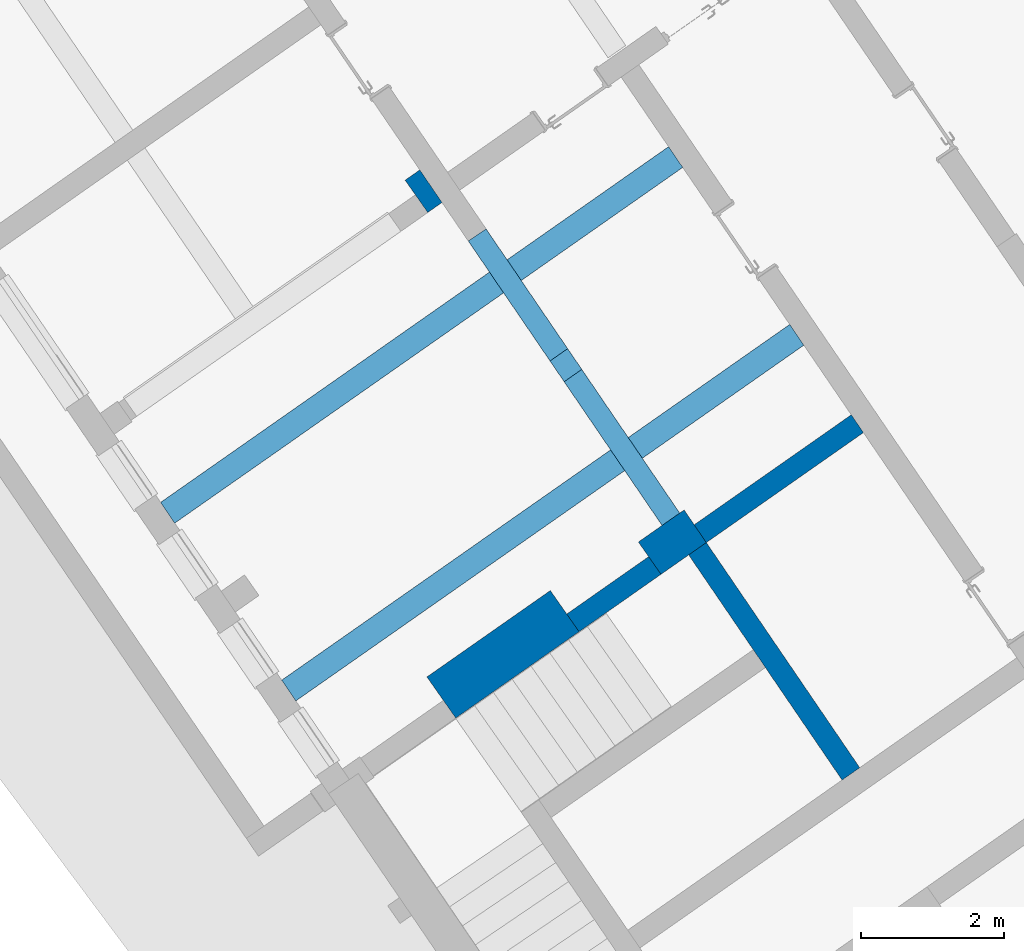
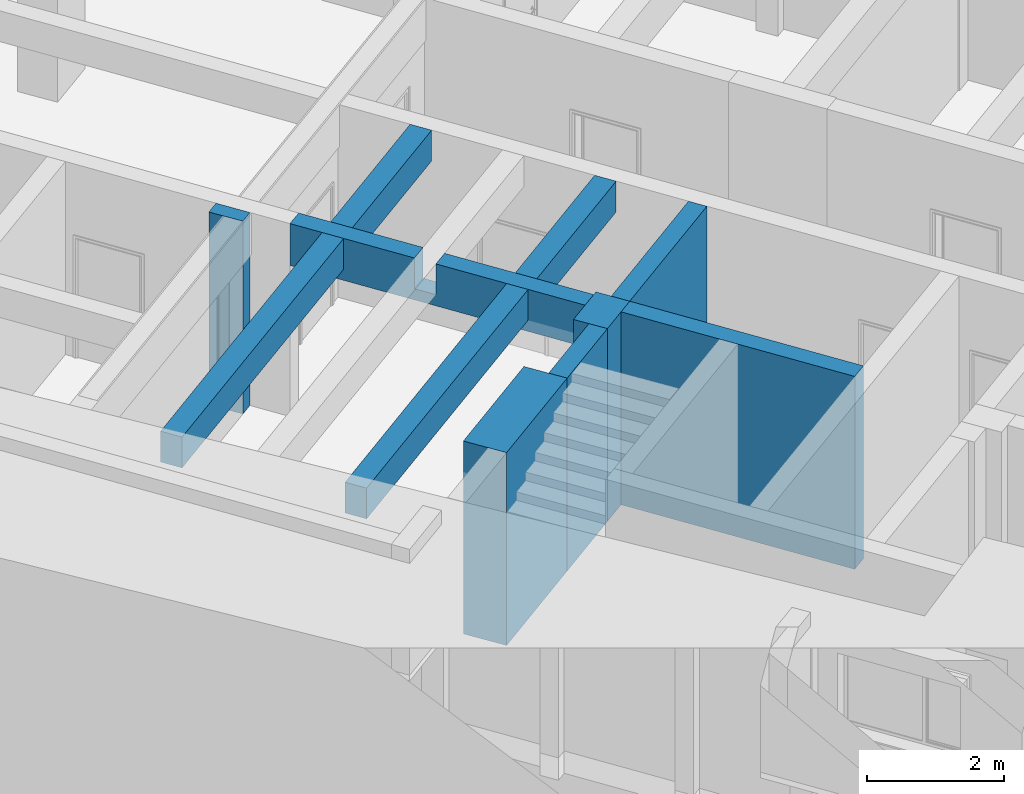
# One storey, part 36 of 112: 9 walls, 2 openings.
"""IFC2X3 building model written with IfcOpenShell, lengths in millimetres."""

from ifc_helpers import new_model, entity, si_unit, converted_unit, derived_unit, direction, frame, frame_2d, origin, origin_2d_with_axis, place, context, subcontext, project, spatial, polyline, rectangle, outline, extrude, clip, bounded_halfspace, material, layer, layer_set, layer_usage, type_object, element, save


model = new_model("IFC2X3")

# Units and contexts
model_context = context("Model", 3, precision=0.01, world=origin(), true_north=direction((6.123031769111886e-17, 1.0)))
body_context = subcontext(model_context, "Body", "Model", "MODEL_VIEW")
ifc_project = project(units=[si_unit("LENGTHUNIT", "METRE", prefix="MILLI"), si_unit("AREAUNIT", "SQUARE_METRE"), si_unit("VOLUMEUNIT", "CUBIC_METRE"), converted_unit("PLANEANGLEUNIT", "DEGREE", entity("IfcRatioMeasure", 0.017453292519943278), si_unit("PLANEANGLEUNIT", "RADIAN"), dimensions=[0, 0, 0, 0, 0, 0, 0]), si_unit("MASSUNIT", "GRAM", prefix="KILO"), derived_unit("MASSDENSITYUNIT", [(si_unit("MASSUNIT", "GRAM", prefix="KILO"), 1), (si_unit("LENGTHUNIT", "METRE"), -3)]), derived_unit("MOMENTOFINERTIAUNIT", [(si_unit("LENGTHUNIT", "METRE"), 4)]), si_unit("TIMEUNIT", "SECOND"), si_unit("FREQUENCYUNIT", "HERTZ"), si_unit("THERMODYNAMICTEMPERATUREUNIT", "DEGREE_CELSIUS"), derived_unit("THERMALTRANSMITTANCEUNIT", [(si_unit("MASSUNIT", "GRAM", prefix="KILO"), 1), (si_unit("THERMODYNAMICTEMPERATUREUNIT", "KELVIN"), -1), (si_unit("TIMEUNIT", "SECOND"), -3)]), derived_unit("THERMALCONDUCTANCEUNIT", [(si_unit("MASSUNIT", "GRAM", prefix="KILO"), 1), (si_unit("LENGTHUNIT", "METRE"), 1), (si_unit("THERMODYNAMICTEMPERATUREUNIT", "KELVIN"), -1), (si_unit("TIMEUNIT", "SECOND"), -3)]), derived_unit("VOLUMETRICFLOWRATEUNIT", [(si_unit("LENGTHUNIT", "METRE"), 3), (si_unit("TIMEUNIT", "SECOND"), -1)]), derived_unit("MASSFLOWRATEUNIT", [(si_unit("MASSUNIT", "GRAM", prefix="KILO"), 1), (si_unit("TIMEUNIT", "SECOND"), -1)]), derived_unit("ROTATIONALFREQUENCYUNIT", [(si_unit("TIMEUNIT", "SECOND"), -1)]), si_unit("ELECTRICCURRENTUNIT", "AMPERE"), si_unit("ELECTRICVOLTAGEUNIT", "VOLT"), si_unit("POWERUNIT", "WATT"), converted_unit("FORCEUNIT", "KIP", entity("IfcRatioMeasure", 2.088543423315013e-05), si_unit("FORCEUNIT", "NEWTON"), dimensions=[1, 1, -2, 0, 0, 0, 0]), si_unit("ILLUMINANCEUNIT", "LUX"), si_unit("LUMINOUSFLUXUNIT", "LUMEN"), si_unit("LUMINOUSINTENSITYUNIT", "CANDELA"), derived_unit("USERDEFINED", [(si_unit("MASSUNIT", "GRAM", prefix="KILO"), -1), (si_unit("LENGTHUNIT", "METRE"), -2), (si_unit("TIMEUNIT", "SECOND"), 3), (si_unit("LUMINOUSFLUXUNIT", "LUMEN"), 1)]), derived_unit("USERDEFINED", [(si_unit("MASSUNIT", "GRAM", prefix="KILO"), 1), (si_unit("LENGTHUNIT", "METRE"), 3), (si_unit("TIMEUNIT", "SECOND"), -3), (si_unit("ELECTRICCURRENTUNIT", "AMPERE"), -2)]), derived_unit("USERDEFINED", [(si_unit("LENGTHUNIT", "METRE"), 2), (si_unit("TIMEUNIT", "SECOND"), -2)]), derived_unit("SOUNDPOWERUNIT", [(si_unit("MASSUNIT", "GRAM", prefix="KILO"), 1), (si_unit("LENGTHUNIT", "METRE"), 2), (si_unit("TIMEUNIT", "SECOND"), -3)]), derived_unit("SOUNDPRESSUREUNIT", [(si_unit("MASSUNIT", "GRAM", prefix="KILO"), 1), (si_unit("LENGTHUNIT", "METRE"), -1), (si_unit("TIMEUNIT", "SECOND"), -2)]), derived_unit("LINEARVELOCITYUNIT", [(si_unit("LENGTHUNIT", "METRE"), 1), (si_unit("TIMEUNIT", "SECOND"), -1)]), si_unit("PRESSUREUNIT", "PASCAL"), derived_unit("USERDEFINED", [(si_unit("LENGTHUNIT", "METRE"), -2), (si_unit("MASSUNIT", "GRAM", prefix="KILO"), 1), (si_unit("TIMEUNIT", "SECOND"), -2)]), derived_unit("LINEARFORCEUNIT", [(si_unit("MASSUNIT", "GRAM", prefix="KILO"), 1), (si_unit("LENGTHUNIT", "METRE"), 1), (si_unit("TIMEUNIT", "SECOND"), -2), (si_unit("LENGTHUNIT", "METRE"), -1)]), derived_unit("PLANARFORCEUNIT", [(si_unit("MASSUNIT", "GRAM", prefix="KILO"), 1), (si_unit("LENGTHUNIT", "METRE"), 1), (si_unit("TIMEUNIT", "SECOND"), -2), (si_unit("LENGTHUNIT", "METRE"), -2)]), derived_unit("SPECIFICHEATCAPACITYUNIT", [(si_unit("LENGTHUNIT", "METRE"), 2), (si_unit("TIMEUNIT", "SECOND"), -2), (si_unit("THERMODYNAMICTEMPERATUREUNIT", "KELVIN"), -1)]), derived_unit("VAPORPERMEABILITYUNIT", [(si_unit("TIMEUNIT", "SECOND"), 1), (si_unit("LENGTHUNIT", "METRE"), -1)]), derived_unit("DYNAMICVISCOSITYUNIT", [(si_unit("MASSUNIT", "GRAM", prefix="KILO"), 1), (si_unit("LENGTHUNIT", "METRE"), -1), (si_unit("TIMEUNIT", "SECOND"), -1)]), derived_unit("THERMALEXPANSIONCOEFFICIENTUNIT", [(si_unit("THERMODYNAMICTEMPERATUREUNIT", "KELVIN"), -1)])], contexts=[model_context])

# Site, building, storey
site_placement = place(None, frame((0.0, 0.0, 0.0), z_axis=(0.0, 0.0, 1.0), x_axis=(0.8191520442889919, 0.5735764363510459, 0.0)))
site = spatial("IfcSite", under=ifc_project, at=site_placement, Name="Default", CompositionType="ELEMENT")
building_placement = place(site_placement, origin())
building = spatial("IfcBuilding", under=site, at=building_placement, CompositionType="ELEMENT")
storey_placement = place(building_placement, frame((0.0, 0.0, -3600.0)))
storey = spatial("IfcBuildingStorey", under=building, at=storey_placement, Name="0.UG -3.60", CompositionType="ELEMENT", Elevation=-3600.0000000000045)

# Walls
ifc_material = material(Name="Analytical Wall Surface_CJC")
ifc_layer_1 = layer(ifc_material, 300.0)
ifc_layer_set_1 = layer_set([ifc_layer_1], Name="Basic Wall:Wand_Innen_30")
ifc_layer_usage_1 = layer_usage(ifc_layer_set_1, "AXIS2", "NEGATIVE", 150.0)
wall_type_1 = type_object("IfcWallType", Name="Basic Wall:Wand_Innen_30", PredefinedType="STANDARD", material=ifc_layer_set_1)
wall_1_placement = place(storey_placement, frame((-216973.09805991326, 111744.44947620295, 0.0), z_axis=(0.0, 0.0, 1.0), x_axis=(0.012729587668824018, 0.9999189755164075, 0.0)))
element("IfcWallStandardCase", 1, at=wall_1_placement, inside=storey, type_object=wall_type_1, material=ifc_layer_usage_1, Name="Basic Wall:Wand_Innen_30", ObjectType="Basic Wall:Wand_Innen_30", context=body_context, shape_type="SweptSolid", body=[
    extrude(outline(polyline([(3804.1271037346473, -150.0), (3800.307917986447, 150.0), (2200.1782683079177, 150.0), (1900.153958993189, 150.0), (0.0, 150.0), (3.8191857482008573, -150.0), (3804.1271037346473, -150.0)])), origin(), (0.0, 0.0, 1.0), 3450.0),
])
ifc_layer_usage_2 = layer_usage(ifc_layer_set_1, "AXIS2", "POSITIVE", -150.0)
wall_2_placement = place(storey_placement, frame((-217545.91670276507, 115696.35891435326, 0.0), z_axis=(0.0, 0.0, 1.0), x_axis=(-1.0, 0.0, 0.0)))
element("IfcWallStandardCase", 2, at=wall_2_placement, inside=storey, type_object=wall_type_1, material=ifc_layer_usage_2, Name="Basic Wall:Wand_Innen_30", ObjectType="Basic Wall:Wand_Innen_30", context=body_context, shape_type="SweptSolid", body=[
    extrude(rectangle(XDim=1395.0211958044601, YDim=300.00000000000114, at=frame_2d((697.5105979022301, -3.566924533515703e-12), x_axis=(-1.0, 0.0))), origin(), (0.0, 0.0, 1.0), 3450.0),
])
wall_3_placement = place(storey_placement, frame((-214095.6370105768, 115696.35891435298, 0.0), z_axis=(0.0, 0.0, 1.0), x_axis=(-1.0, 0.0, 0.0)))
element("IfcWallStandardCase", 3, at=wall_3_placement, inside=storey, type_object=wall_type_1, material=ifc_layer_usage_2, Name="Basic Wall:Wand_Innen_30", ObjectType="Basic Wall:Wand_Innen_30", context=body_context, shape_type="SweptSolid", body=[
    extrude(outline(polyline([(2675.2290477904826, -150.0), (2679.0482335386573, 150.0), (3.819185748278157, 150.0), (0.0, -150.0), (2675.2290477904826, -150.0)])), origin(), (0.0, 0.0, 1.0), 3450.0),
])
wall_4_placement = place(storey_placement, frame((-216931.61897192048, 120894.44947620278, 2700.0), z_axis=(0.0, 0.0, 1.0), x_axis=(-0.012729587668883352, -0.9999189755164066, 0.0)))
element("IfcWallStandardCase", 4, at=wall_4_placement, inside=storey, type_object=wall_type_1, material=ifc_layer_usage_2, Name="Basic Wall:Wand_Innen_30", ObjectType="Basic Wall:Wand_Innen_30", context=body_context, shape_type="Clipping", body=[
    clip(extrude(outline(polyline([(4800.388949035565, -150.0), (4796.569763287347, 150.0), (0.0, 150.0), (0.0, -150.0), (4800.388949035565, -150.0)])), origin(), (0.0, 0.0, 1.0), 750.0), bounded_halfspace(frame((2021.3449021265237, 150.0, 200.0), z_axis=(0.0, 0.0, -1.0), x_axis=(0.9999189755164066, 0.012729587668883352, 0.0)), True, frame((2021.3449021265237, 150.0, 200.0), z_axis=(0.0, 0.0, -1.0), x_axis=(0.9999189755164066, 0.012729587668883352, 0.0)), polyline([(0.0, 0.0), (350.0, 4.455716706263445), (350.0, 304.4800260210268), (0.0, 300.0243093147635), (0.0, 0.0)]))),
])

# Wall, opening
ifc_layer_2 = layer(ifc_material, 350.0)
ifc_layer_set_2 = layer_set([ifc_layer_2], Name="Basic Wall:Wand_Innen_35")
ifc_layer_usage_3 = layer_usage(ifc_layer_set_2, "AXIS2", "POSITIVE", -175.0)
wall_type_2 = type_object("IfcWallType", Name="Basic Wall:Wand_Innen_35", PredefinedType="STANDARD", material=ifc_layer_set_2)
wall_5_placement = place(storey_placement, frame((-214076.22281635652, 117196.3589143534, 2900.0), z_axis=(0.0, 0.0, 1.0), x_axis=(-1.0, 0.0, 0.0)))
wall_5 = element("IfcWallStandardCase", 5, at=wall_5_placement, inside=storey, type_object=wall_type_2, material=ifc_layer_usage_3, Name="Basic Wall:Wand_Innen_35", ObjectType="Basic Wall:Wand_Innen_35", context=body_context, shape_type="SweptSolid", body=[
    extrude(outline(polyline([(4.455716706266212, 175.0), (0.0, -175.0), (8650.651745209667, -175.0), (8655.107461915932, 175.0), (4.455716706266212, 175.0)])), origin(), (0.0, 0.0, 1.0), 550.0),
])
opening_1_placement = place(storey_placement, frame((-214076.22281635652, 117196.3589143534, 2900.0), z_axis=(0.0, 0.0, 1.0), x_axis=(-1.0, 0.0, 0.0)))
element("IfcOpeningElement", 6, at=opening_1_placement, cuts=wall_5, Name="Basic Wall:Wand_Innen_35:1", ObjectType="Opening", context=body_context, shape_type="SweptSolid", body=[
    extrude(rectangle(XDim=550.0, YDim=350.02836086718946, at=frame_2d((0.0, 8.881784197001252e-12), x_axis=(1.0, 0.0))), frame((3052.4872927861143, 0.0, 275.0), z_axis=(-0.9999189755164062, 0.01272958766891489, 0.0), x_axis=(0.0, 0.0, 1.0)), (0.0, -0.012729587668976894, 0.9999189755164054), 300.0729338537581),
])

wall_6_placement = place(storey_placement, frame((-222693.13842079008, 120196.3589143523, 2900.0)))
wall_6 = element("IfcWallStandardCase", 7, at=wall_6_placement, inside=storey, type_object=wall_type_2, material=ifc_layer_usage_3, Name="Basic Wall:Wand_Innen_35", ObjectType="Basic Wall:Wand_Innen_35", context=body_context, shape_type="SweptSolid", body=[
    extrude(outline(polyline([(4.455716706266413, 175.0), (0.0, -175.0), (8650.651745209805, -175.0), (8655.107461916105, 175.0), (4.455716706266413, 175.0)])), origin(), (0.0, 0.0, 1.0), 550.0),
])
opening_2_placement = place(storey_placement, frame((-222693.13842079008, 120196.3589143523, 2900.0)))
element("IfcOpeningElement", 8, at=opening_2_placement, cuts=wall_6, Name="Basic Wall:Wand_Innen_35:1", ObjectType="Opening", context=body_context, shape_type="SweptSolid", body=[
    extrude(rectangle(XDim=550.0, YDim=350.02836086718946, at=origin_2d_with_axis()), frame((5602.620169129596, 0.0, 275.0), z_axis=(0.9999189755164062, -0.012729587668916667, 0.0), x_axis=(0.0, 0.0, -1.0)), (0.0, 0.012729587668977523, 0.9999189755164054), 300.0729338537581),
])

# Walls
ifc_layer_3 = layer(ifc_material, 550.0)
ifc_layer_set_3 = layer_set([ifc_layer_3], Name="Basic Wall:Wand_Innen_55")
ifc_layer_usage_4 = layer_usage(ifc_layer_set_3, "AXIS2", "POSITIVE", -275.0)
wall_type_3 = type_object("IfcWallType", Name="Basic Wall:Wand_Innen_55", PredefinedType="STANDARD", material=ifc_layer_set_3)
wall_7_placement = place(storey_placement, frame((-216767.68340357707, 115821.35891435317, 0.0), z_axis=(0.0, 0.0, 1.0), x_axis=(-1.0, 0.0, 0.0)))
element("IfcWallStandardCase", 9, at=wall_7_placement, inside=storey, type_object=wall_type_3, material=ifc_layer_usage_4, Name="Basic Wall:Wand_Innen_55", ObjectType="Basic Wall:Wand_Innen_55", context=body_context, shape_type="SweptSolid", body=[
    extrude(outline(polyline([(778.2332991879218, -275.0), (778.2332991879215, -25.0), (778.2332991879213, 275.0), (307.0261498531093, 275.0), (7.001840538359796, 275.0), (3.1826547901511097, -25.0), (0.0, -275.0), (778.2332991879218, -275.0)])), origin(), (0.0, 0.0, 1.0), 3450.0),
])
wall_8_placement = place(storey_placement, frame((-217316.3503330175, 121821.35891435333, 0.0)))
element("IfcWallStandardCase", 10, at=wall_8_placement, inside=storey, type_object=wall_type_3, material=ifc_layer_usage_4, Name="Basic Wall:Wand_Innen_55", ObjectType="Basic Wall:Wand_Innen_55", context=body_context, shape_type="SweptSolid", body=[
    extrude(outline(polyline([(243.0184172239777, -275.0), (250.0202577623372, 275.0), (0.0, 275.0), (0.0, 25.0), (0.0, -275.0), (243.0184172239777, -275.0)])), origin(), (0.0, 0.0, 1.0), 3450.0),
])
ifc_layer_4 = layer(ifc_material, 700.0)
ifc_layer_set_4 = layer_set([ifc_layer_4], Name="Basic Wall:Wand_Innen_70")
ifc_layer_usage_5 = layer_usage(ifc_layer_set_4, "AXIS2", "POSITIVE", -350.0)
wall_type_4 = type_object("IfcWallType", Name="Basic Wall:Wand_Innen_70", PredefinedType="STANDARD", material=ifc_layer_set_4)
wall_9_placement = place(storey_placement, frame((-218940.93789856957, 115896.35891435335, 0.0), z_axis=(0.0, 0.0, 1.0), x_axis=(-1.0, 0.0, 0.0)))
element("IfcWallStandardCase", 11, at=wall_9_placement, inside=storey, type_object=wall_type_4, material=ifc_layer_usage_5, Name="Basic Wall:Wand_Innen_70", ObjectType="Basic Wall:Wand_Innen_70", context=body_context, shape_type="SweptSolid", body=[
    extrude(rectangle(XDim=2100.1701652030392, YDim=700.0000000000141, at=frame_2d((1050.0850826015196, 1.1652900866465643e-12), x_axis=(-1.0, 0.0))), origin(), (0.0, 0.0, 1.0), 3450.0),
])

save(model, "model.ifc")
